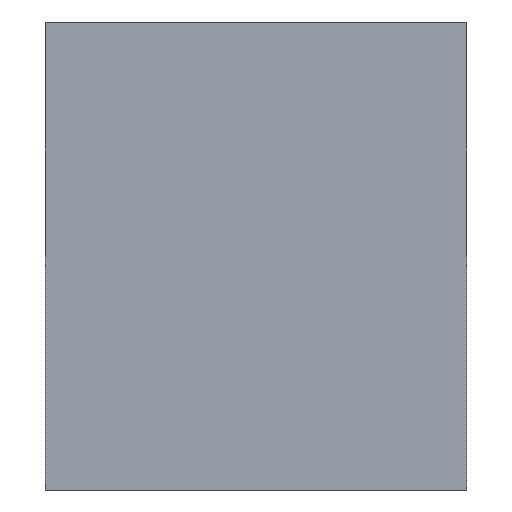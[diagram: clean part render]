
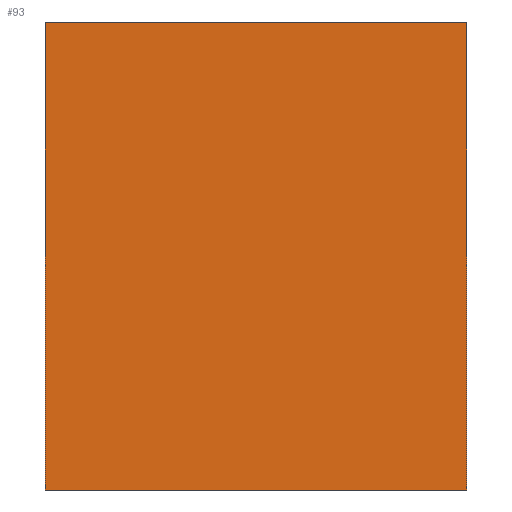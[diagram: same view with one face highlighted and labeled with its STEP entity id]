
A CAD part, left-side view. The second image highlights one B-rep face of the part: STEP entity #93.
In plain terms, the highlighted planar face has unit normal (-1, 0, 0).
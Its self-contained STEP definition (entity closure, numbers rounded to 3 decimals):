
#63=FACE_OUTER_BOUND('',#256,.T.);
#67=LINE('',#875,#79);
#69=LINE('',#887,#81);
#74=LINE('',#901,#86);
#75=LINE('',#905,#87);
#79=VECTOR('',#690,1.);
#81=VECTOR('',#702,1.);
#86=VECTOR('',#713,1.);
#87=VECTOR('',#718,1.);
#93=ADVANCED_FACE('',(#63),#136,.T.);
#136=PLANE('',#606);
#256=EDGE_LOOP('',(#355,#356,#357,#358));
#355=ORIENTED_EDGE('',*,*,#500,.T.);
#356=ORIENTED_EDGE('',*,*,#513,.T.);
#357=ORIENTED_EDGE('',*,*,#506,.F.);
#358=ORIENTED_EDGE('',*,*,#515,.T.);
#446=VERTEX_POINT('',#874);
#447=VERTEX_POINT('',#876);
#452=VERTEX_POINT('',#888);
#453=VERTEX_POINT('',#889);
#500=EDGE_CURVE('',#447,#446,#67,.T.);
#506=EDGE_CURVE('',#452,#453,#69,.T.);
#513=EDGE_CURVE('',#446,#453,#74,.T.);
#515=EDGE_CURVE('',#452,#447,#75,.T.);
#606=AXIS2_PLACEMENT_3D('',#906,#719,#720);
#690=DIRECTION('',(0.,0.,1.));
#702=DIRECTION('',(0.,0.,1.));
#713=DIRECTION('',(0.,1.,0.));
#718=DIRECTION('',(0.,-1.,0.));
#719=DIRECTION('',(-1.,0.,0.));
#720=DIRECTION('',(0.,0.,1.));
#874=CARTESIAN_POINT('',(-29.,-18.,0.));
#875=CARTESIAN_POINT('',(-29.,-18.,-40.));
#876=CARTESIAN_POINT('',(-29.,-18.,-40.));
#887=CARTESIAN_POINT('',(-29.,18.,-40.));
#888=CARTESIAN_POINT('',(-29.,18.,-40.));
#889=CARTESIAN_POINT('',(-29.,18.,0.));
#901=CARTESIAN_POINT('',(-29.,0.,0.));
#905=CARTESIAN_POINT('',(-29.,0.,-40.));
#906=CARTESIAN_POINT('',(-29.,0.,-40.));
